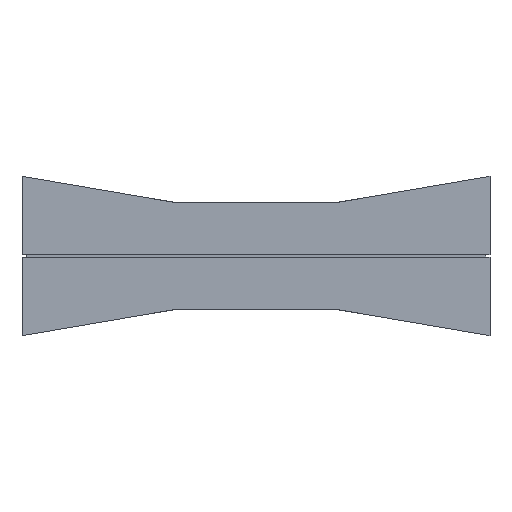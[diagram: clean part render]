
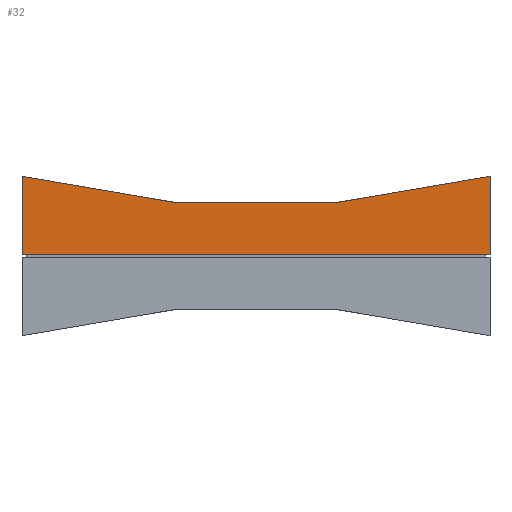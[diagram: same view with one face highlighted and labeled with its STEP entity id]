
A CAD part, front view. The second image highlights one B-rep face of the part: STEP entity #32.
In plain terms, the highlighted planar face has unit normal (0, -1, 0).
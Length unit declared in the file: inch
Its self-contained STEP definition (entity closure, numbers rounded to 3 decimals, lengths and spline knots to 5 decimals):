
#32=ADVANCED_FACE('',(#72),#614,.T.);
#72=FACE_OUTER_BOUND('',#112,.T.);
#112=EDGE_LOOP('',(#177,#178,#179,#180));
#177=ORIENTED_EDGE('',*,*,#338,.F.);
#178=ORIENTED_EDGE('',*,*,#337,.F.);
#179=ORIENTED_EDGE('',*,*,#342,.T.);
#180=ORIENTED_EDGE('',*,*,#353,.F.);
#337=EDGE_CURVE('',#545,#546,#513,.T.);
#338=EDGE_CURVE('',#546,#557,#433,.T.);
#342=EDGE_CURVE('',#545,#553,#436,.T.);
#353=EDGE_CURVE('',#557,#553,#445,.T.);
#433=B_SPLINE_CURVE_WITH_KNOTS('',1,(#907,#908),.UNSPECIFIED.,.F.,.F.,(2,
2),(-260.86147,-256.92397),.UNSPECIFIED.);
#436=B_SPLINE_CURVE_WITH_KNOTS('',1,(#920,#921),.UNSPECIFIED.,.F.,.F.,(2,
2),(264.11121,268.04871),.UNSPECIFIED.);
#445=B_SPLINE_CURVE_WITH_KNOTS('',1,(#948,#949),.UNSPECIFIED.,.F.,.F.,(2,
2),(23.75,47.24997),.UNSPECIFIED.);
#513=TRIMMED_CURVE($,#529,(#905),(#906),.T.,.CARTESIAN.);
#529=CIRCLE('',#750,46.6291);
#545=VERTEX_POINT('',#888);
#546=VERTEX_POINT('',#889);
#553=VERTEX_POINT('',#896);
#557=VERTEX_POINT('',#900);
#614=PLANE('',#747);
#747=AXIS2_PLACEMENT_3D('',#885,#807,$);
#750=AXIS2_PLACEMENT_3D($,#904,#810,#811);
#807=DIRECTION('',(0.,-1.,0.));
#810=DIRECTION('',(0.,-1.,0.));
#811=DIRECTION('',(-0.252,0.,-0.968));
#885=CARTESIAN_POINT('',(2710.03375,171.99431,75.36503));
#888=CARTESIAN_POINT('',(2710.03375,171.99431,75.36503));
#889=CARTESIAN_POINT('',(2733.53375,171.99431,75.36503));
#896=CARTESIAN_POINT('',(2710.03375,171.99431,71.42753));
#900=CARTESIAN_POINT('',(2733.53375,171.99431,71.42753));
#904=CARTESIAN_POINT('',(2721.78375,171.99431,120.48942));
#905=CARTESIAN_POINT('',(2710.03375,171.99431,75.36503));
#906=CARTESIAN_POINT('',(2733.53375,171.99431,75.36503));
#907=CARTESIAN_POINT('',(2733.53375,171.99431,75.36503));
#908=CARTESIAN_POINT('',(2733.53375,171.99431,71.42753));
#920=CARTESIAN_POINT('',(2710.03375,171.99431,75.36503));
#921=CARTESIAN_POINT('',(2710.03375,171.99431,71.42753));
#948=CARTESIAN_POINT('',(2733.53375,171.99431,71.42753));
#949=CARTESIAN_POINT('',(2710.03375,171.99431,71.42753));
